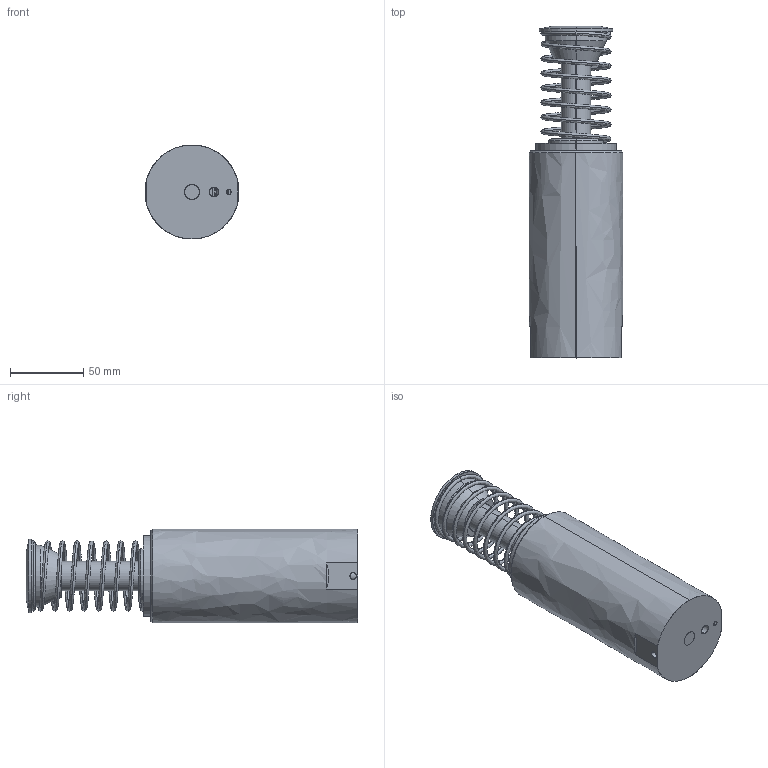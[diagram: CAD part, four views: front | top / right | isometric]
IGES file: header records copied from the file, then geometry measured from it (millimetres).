
Start section: SolidWorks IGES file using analytic representation for surfaces
Bounding box: 64 x 226 x 64 mm (x, y, z)
Surface area: 66282.4 mm2 (no closed solid volume)
Topology: 0 solids, 0 shells, 86 faces, 1806 edges, 1806 vertices
Faces by surface type: revolution 50, bspline 36
